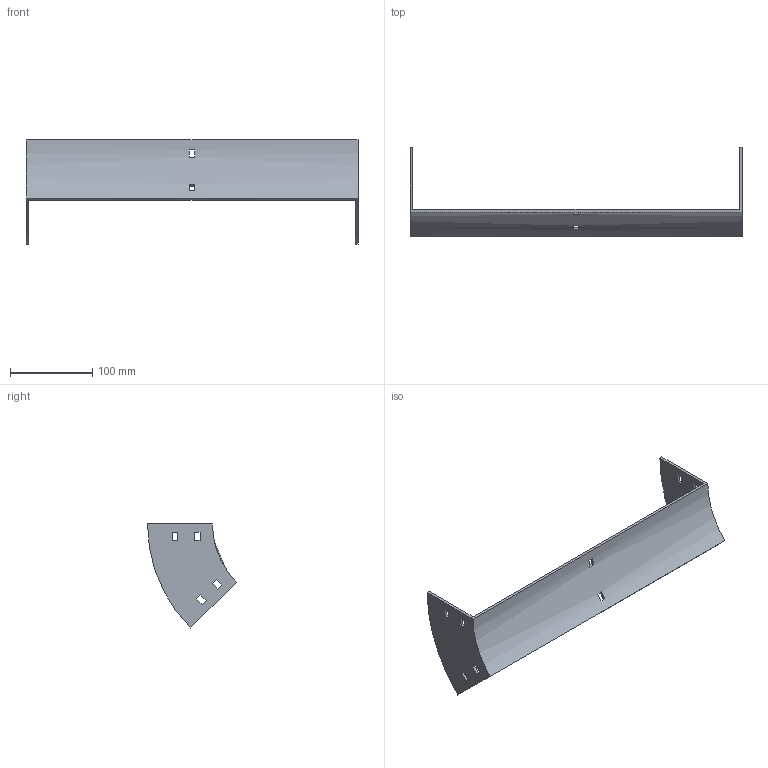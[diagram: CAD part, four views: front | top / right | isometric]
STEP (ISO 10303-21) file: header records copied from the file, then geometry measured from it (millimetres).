
FILE_DESCRIPTION (( 'STEP AP214' ), '1' );
FILE_NAME ('34B1C400.step', '2025-02-21T09:29:32', ( '' ), ( '' ), 'SwSTEP 2.0', 'SolidWorks 2023', '' );
FILE_SCHEMA (( 'AUTOMOTIVE_DESIGN' ));
Length unit declared in the file: millimetre
Products named in the file (1): 34B1C400
Bounding box: 404 x 108.29 x 126.57 mm (x, y, z)
Volume: 169254.1 mm3; surface area: 102748.2 mm2
Topology: 1 solids, 1 shells, 50 faces, 144 edges, 96 vertices
Faces by surface type: plane 46, cylinder 4
Entity records: 1687 total; most frequent: CARTESIAN_POINT 291, ORIENTED_EDGE 288, DIRECTION 262, EDGE_CURVE 144, VECTOR 128, LINE 128, VERTEX_POINT 96, EDGE_LOOP 70
